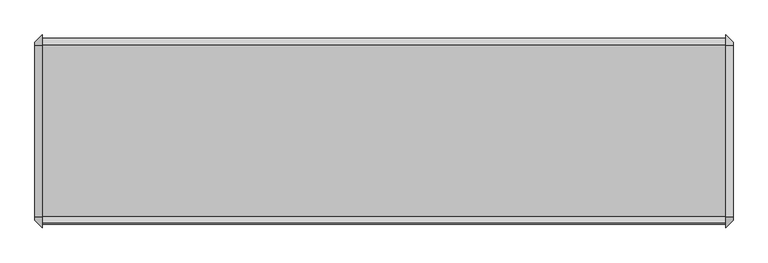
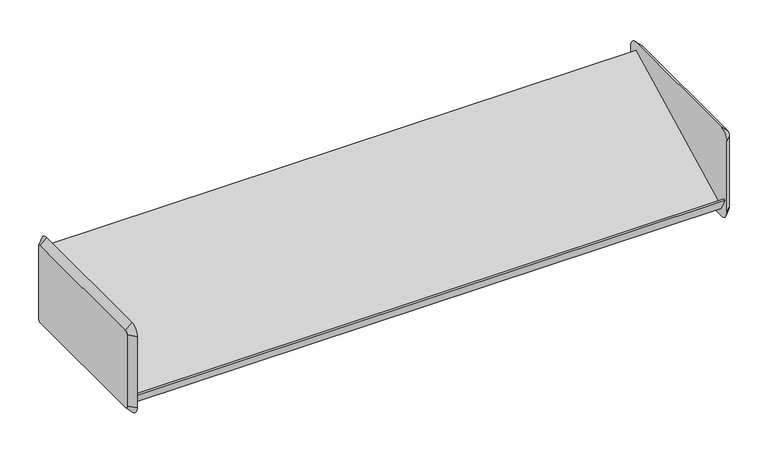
"""IFC4 building model written with IfcOpenShell, lengths in millimetres: furniture geometry."""

from ifc_helpers import new_model, si_unit, frame, origin, place, context, project, spatial, polyline, circle_curve, outline, extrude, source, transform, mapped, element, save
from ifc_brep_helpers import plane_surface, revolved_surface, advanced_brep


def furniture_c21b4e62(model_context):
    return source(origin(), model_context, "Body", "SolidModel", [
        advanced_brep(
        [(485.6579955, 161.925, 673.1), (485.6579955, -136.525, 673.1), (485.6579955, -142.875, 666.75), (485.6579955, -142.875, 514.35), (485.6579955, -136.525, 508.0), (485.6579955, 161.925, 508.0), (485.6579955, 168.275, 514.35), (485.6579955, 168.275, 666.75), (472.9579955, 161.925, 685.8), (472.9579955, 180.975, 666.75), (472.9579955, 180.975, 514.35), (472.9579955, 161.925, 495.3), (472.9579955, -136.525, 495.3), (472.9579955, -155.575, 514.35), (472.9579955, -155.575, 666.75), (472.9579955, -136.525, 685.8)],
        [
            (0, 1),
            (1, 2, circle_curve(frame((485.6579955, -136.525, 666.75), z_axis=(1.0, 2.0756729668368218e-12, -2.174260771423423e-12), x_axis=(2.1742640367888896e-12, 0.0, 1.0)), 6.35)),
            (2, 3),
            (3, 4, circle_curve(frame((485.6579955, -136.525, 514.35), z_axis=(1.0, 2.0596857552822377e-12, 2.046363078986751e-12), x_axis=(2.059647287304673e-12, -1.0, 0.0)), 6.35)),
            (4, 5),
            (5, 6, circle_curve(frame((485.6579955, 161.925, 514.35), z_axis=(1.0, 2.0889956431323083e-12, -2.0996537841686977e-12), x_axis=(-2.0996846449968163e-12, 0.0, -1.0)), 6.35)),
            (6, 7),
            (7, 0, circle_curve(frame((485.6579955, 161.925, 666.75), z_axis=(1.0, 2.0783375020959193e-12, 1.971756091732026e-12), x_axis=(-2.0783313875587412e-12, 1.0, 0.0)), 6.35)),
            (8, 9, circle_curve(frame((472.9579955, 161.925, 666.75), z_axis=(-1.0, -2.0783375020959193e-12, -1.971756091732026e-12), x_axis=(-2.0783313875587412e-12, 1.0, 0.0)), 19.05)),
            (9, 10),
            (10, 11, circle_curve(frame((472.9579955, 161.925, 514.35), z_axis=(-1.0, -2.0889956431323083e-12, 2.0996537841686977e-12), x_axis=(-2.0996846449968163e-12, 0.0, -1.0)), 19.05)),
            (11, 12),
            (12, 13, circle_curve(frame((472.9579955, -136.525, 514.35), z_axis=(-1.0, -2.0596857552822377e-12, -2.046363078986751e-12), x_axis=(2.059647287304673e-12, -1.0, 0.0)), 19.05)),
            (13, 14),
            (14, 15, circle_curve(frame((472.9579955, -136.525, 666.75), z_axis=(-1.0, -2.0756729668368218e-12, 2.174260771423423e-12), x_axis=(2.1742640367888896e-12, 0.0, 1.0)), 19.05)),
            (15, 8),
            (15, 1),
            (0, 8),
            (14, 2),
            (13, 3),
            (12, 4),
            (11, 5),
            (10, 6),
            (9, 7),
        ],
        [
            plane_surface(frame((485.6579955, 12.7, 590.55), z_axis=(1.0, 0.0, 0.0), x_axis=(0.0, -1.0, 0.0))),
            plane_surface(frame((472.9579955, 12.7, 590.55), z_axis=(-1.0, 0.0, 0.0), x_axis=(0.0, -1.0, 0.0))),
            plane_surface(frame((472.9579955, 12.7, 685.8), z_axis=(0.7071067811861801, 0.0, 0.707106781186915), x_axis=(0.0, -1.0, 0.0))),
            revolved_surface(polyline([(485.65799550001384, -136.525, 673.0999999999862), (472.9579955, -136.525, 685.8)]), (492.0079955, -136.525, 666.75), (-1.0, -2.0756729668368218e-12, 2.174260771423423e-12)),
            plane_surface(frame((472.9579955, -155.575, 590.55), z_axis=(0.7071067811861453, -0.7071067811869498, 0.0), x_axis=(0.0, 0.0, -1.0))),
            revolved_surface(polyline([(485.6579955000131, -142.87499999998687, 514.35), (472.9579955, -155.575, 514.35)]), (492.0079955, -136.525, 514.35), (-1.0, -2.0596857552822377e-12, -2.046363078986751e-12)),
            plane_surface(frame((472.9579955, 12.7, 495.3), z_axis=(0.7071067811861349, 0.0, -0.7071067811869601), x_axis=(0.0, 1.0, 0.0))),
            revolved_surface(polyline([(485.6579955, 161.925, 508.00000000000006), (472.95799549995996, 161.925, 495.29999999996)]), (492.0079955, 161.925, 514.35), (-1.0, -2.0889956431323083e-12, 2.0996537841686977e-12)),
            plane_surface(frame((472.9579955, 180.975, 590.55), z_axis=(0.7071067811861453, 0.7071067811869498, 0.0), x_axis=(0.0, 0.0, 1.0))),
            revolved_surface(polyline([(485.6579955, 168.27499999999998, 666.75), (472.95799549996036, 180.97500000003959, 666.75)]), (492.0079955, 161.925, 666.75), (-1.0, -2.0783375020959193e-12, -1.971756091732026e-12)),
        ],
        [
            (0, [[1, 2, 3, 4, 5, 6, 7, 8]]),
            (1, [[9, 10, 11, 12, 13, 14, 15, 16]]),
            (2, [[-16, 17, -1, 18]]),
            (3, [[-15, 19, -2, -17]]),
            (4, [[-14, 20, -3, -19]]),
            (5, [[-13, 21, -4, -20]]),
            (6, [[-12, 22, -5, -21]]),
            (7, [[-11, 23, -6, -22]]),
            (8, [[-10, 24, -7, -23]]),
            (9, [[-9, -18, -8, -24]]),
        ],
    ),
        advanced_brep(
        [(-733.5420045, -136.525, 673.1), (-733.5420045, 161.925, 673.1), (-733.5420045, 168.275, 666.75), (-733.5420045, 168.275, 514.35), (-733.5420045, 161.925, 508.0), (-733.5420045, -136.525, 508.0), (-733.5420045, -142.875, 514.35), (-733.5420045, -142.875, 666.75), (-720.8420045, -136.525, 685.8), (-720.8420045, -155.575, 666.75), (-720.8420045, -155.575, 514.35), (-720.8420045, -136.525, 495.3), (-720.8420045, 161.925, 495.3), (-720.8420045, 180.975, 514.35), (-720.8420045, 180.975, 666.75), (-720.8420045, 161.925, 685.8)],
        [
            (0, 1),
            (1, 2, circle_curve(frame((-733.5420045, 161.925, 666.75), z_axis=(-1.0, 0.0, 0.0), x_axis=(0.0, 0.0, 1.0)), 6.35)),
            (2, 3),
            (3, 4, circle_curve(frame((-733.5420045, 161.925, 514.35), z_axis=(-1.0, 0.0, 0.0), x_axis=(0.0, 1.0, 0.0)), 6.35)),
            (4, 5),
            (5, 6, circle_curve(frame((-733.5420045, -136.525, 514.35), z_axis=(-1.0, 0.0, 0.0), x_axis=(0.0, 0.0, -1.0)), 6.35)),
            (6, 7),
            (7, 0, circle_curve(frame((-733.5420045, -136.525, 666.75), z_axis=(-1.0, 0.0, 0.0), x_axis=(0.0, -1.0, 0.0)), 6.35)),
            (8, 9, circle_curve(frame((-720.8420045, -136.525, 666.75), z_axis=(1.0, 0.0, 0.0), x_axis=(0.0, -1.0, 0.0)), 19.05)),
            (9, 10),
            (10, 11, circle_curve(frame((-720.8420045, -136.525, 514.35), z_axis=(1.0, 0.0, 0.0), x_axis=(0.0, 0.0, -1.0)), 19.05)),
            (11, 12),
            (12, 13, circle_curve(frame((-720.8420045, 161.925, 514.35), z_axis=(1.0, 0.0, 0.0), x_axis=(0.0, 1.0, 0.0)), 19.05)),
            (13, 14),
            (14, 15, circle_curve(frame((-720.8420045, 161.925, 666.75), z_axis=(1.0, 0.0, 0.0), x_axis=(0.0, 0.0, 1.0)), 19.05)),
            (15, 8),
            (15, 1),
            (0, 8),
            (14, 2),
            (13, 3),
            (12, 4),
            (11, 5),
            (10, 6),
            (9, 7),
        ],
        [
            plane_surface(frame((-733.5420045, 12.7, 590.55), z_axis=(-1.0, 0.0, 0.0), x_axis=(0.0, -1.0, 0.0))),
            plane_surface(frame((-720.8420045, 12.7, 590.55), z_axis=(1.0, 0.0, 0.0), x_axis=(0.0, -1.0, 0.0))),
            plane_surface(frame((-720.8420045, 12.7, 685.8), z_axis=(-0.7071067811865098, 0.0, 0.7071067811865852), x_axis=(0.0, 1.0, 0.0))),
            revolved_surface(polyline([(-733.5420045, 161.925, 673.1), (-720.8420045, 161.925, 685.8)]), (-739.8920045, 161.925, 666.75), (1.0, 0.0, 0.0)),
            plane_surface(frame((-720.8420045, 180.975, 590.55), z_axis=(-0.7071067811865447, 0.7071067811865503, 0.0), x_axis=(0.0, 0.0, -1.0))),
            revolved_surface(polyline([(-733.5420045, 168.27500000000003, 514.35), (-720.8420045, 180.975, 514.35)]), (-739.8920045, 161.925, 514.35), (1.0, 0.0, 0.0)),
            plane_surface(frame((-720.8420045, 12.7, 495.3), z_axis=(-0.7071067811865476, 0.0, -0.7071067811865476), x_axis=(0.0, -1.0, 0.0))),
            revolved_surface(polyline([(-733.5420045, -136.525, 508.0), (-720.8420045, -136.525, 495.3)]), (-739.8920045, -136.525, 514.35), (1.0, 0.0, 0.0)),
            plane_surface(frame((-720.8420045, -155.575, 590.55), z_axis=(-0.7071067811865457, -0.7071067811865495, 0.0), x_axis=(0.0, 0.0, 1.0))),
            revolved_surface(polyline([(-733.5420045, -142.87500000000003, 666.75), (-720.8420045, -155.575, 666.75)]), (-739.8920045, -136.525, 666.75), (1.0, 0.0, 0.0)),
        ],
        [
            (0, [[1, 2, 3, 4, 5, 6, 7, 8]]),
            (1, [[9, 10, 11, 12, 13, 14, 15, 16]]),
            (2, [[-16, 17, -1, 18]]),
            (3, [[-15, 19, -2, -17]]),
            (4, [[-14, 20, -3, -19]]),
            (5, [[-13, 21, -4, -20]]),
            (6, [[-12, 22, -5, -21]]),
            (7, [[-11, 23, -6, -22]]),
            (8, [[-10, 24, -7, -23]]),
            (9, [[-9, -18, -8, -24]]),
        ],
    ),
        extrude(outline(polyline([(-137.2094993, 512.2179666), (-149.845093, 536.6467844), (-147.0173828, 538.0907216), (-135.8404765, 516.4820334), (162.5893131, 668.8717194), (175.2453599, 645.2470972), (172.4171401, 643.8028998), (161.2606869, 664.6282806), (-137.2094993, 512.2179666)])), frame((-720.8420045, 0.0, 0.0), z_axis=(1.0, 0.0, 0.0), x_axis=(0.0, 1.0, 0.0)), (0.0, 0.0, 1.0), 1193.8),
    ])


if __name__ == "__main__":
    model = new_model("IFC4")
    model_context = context("Model", 3, world=origin())
    ifc_project = project(units=[si_unit("LENGTHUNIT", "METRE", prefix="MILLI")], contexts=[model_context])
    site = spatial("IfcSite", under=ifc_project)
    building = spatial("IfcBuilding", under=site)
    placement = place(None, origin())
    furniture_shape = furniture_c21b4e62(model_context)
    element("IfcFurniture", 1, ObjectType="HermanMiller_ActionOffice_A3220_B-StyleStorageDisplay : Display 13\"D x 48\"W", at=placement, inside=building, context=model_context, shape_type="MappedRepresentation", body=[
        mapped(furniture_shape, transform((0.0, 0.0, 0.0), x_axis=(1.0, 0.0, 0.0), y_axis=(0.0, 1.0, 0.0), z_axis=(0.0, 0.0, 1.0))),
    ])
    save(model, "model.ifc")
